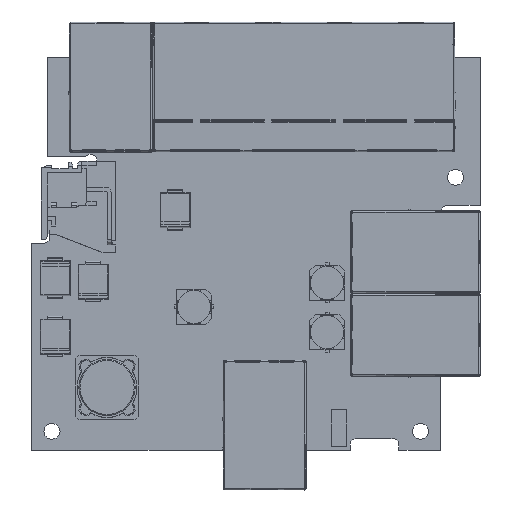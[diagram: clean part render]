
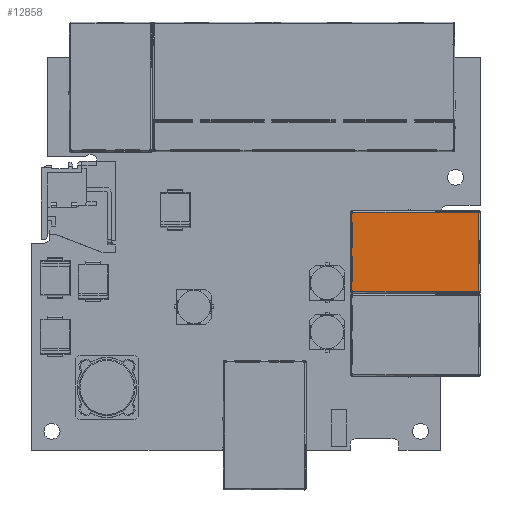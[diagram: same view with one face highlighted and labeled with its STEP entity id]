
A CAD part, top view. The second image highlights one B-rep face of the part: STEP entity #12858.
In plain terms, the highlighted planar face has unit normal (0, 0, 1) as drawn and (0, 0, -1) by its records, which use the part's own axes.
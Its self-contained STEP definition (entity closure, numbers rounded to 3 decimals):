
#12858=ADVANCED_FACE('NONE',(#31293),#31294,.T.);
#31293=FACE_OUTER_BOUND('',#55668,.T.);
#31294=PLANE('',#55669);
#55668=EDGE_LOOP('',(#98108,#98109,#98110,#98111,#98112,#98113,#98114,#98115,#98116,#98117,#98118,#98119,#98120,#98121,#98122,#98123,#98124,#98125,#98126,#98127));
#55669=AXIS2_PLACEMENT_3D('',#98128,#98129,#98130);
#98108=ORIENTED_EDGE('',*,*,#161931,.F.);
#98109=ORIENTED_EDGE('',*,*,#161903,.F.);
#98110=ORIENTED_EDGE('',*,*,#161962,.T.);
#98111=ORIENTED_EDGE('',*,*,#161945,.T.);
#98112=ORIENTED_EDGE('',*,*,#161622,.T.);
#98113=ORIENTED_EDGE('',*,*,#161963,.F.);
#98114=ORIENTED_EDGE('',*,*,#161846,.T.);
#98115=ORIENTED_EDGE('',*,*,#161939,.F.);
#98116=ORIENTED_EDGE('',*,*,#161964,.F.);
#98117=ORIENTED_EDGE('',*,*,#161935,.F.);
#98118=ORIENTED_EDGE('',*,*,#161928,.F.);
#98119=ORIENTED_EDGE('',*,*,#161965,.F.);
#98120=ORIENTED_EDGE('',*,*,#161906,.F.);
#98121=ORIENTED_EDGE('',*,*,#161966,.F.);
#98122=ORIENTED_EDGE('',*,*,#161913,.F.);
#98123=ORIENTED_EDGE('',*,*,#161967,.F.);
#98124=ORIENTED_EDGE('',*,*,#161921,.F.);
#98125=ORIENTED_EDGE('',*,*,#161968,.F.);
#98126=ORIENTED_EDGE('',*,*,#161918,.F.);
#98127=ORIENTED_EDGE('',*,*,#161969,.F.);
#98128=CARTESIAN_POINT('',(10.424,14.673,-6.854));
#98129=DIRECTION('',(0.,0.,-1.0));
#98130=DIRECTION('',(0.,1.0,0.));
#161622=EDGE_CURVE('NONE',#195517,#195515,#195518,.T.);
#161846=EDGE_CURVE('NONE',#195931,#195929,#195932,.T.);
#161903=EDGE_CURVE('NONE',#196016,#196018,#196019,.T.);
#161906=EDGE_CURVE('NONE',#196022,#196023,#196024,.T.);
#161913=EDGE_CURVE('NONE',#196034,#196036,#196037,.T.);
#161918=EDGE_CURVE('NONE',#196043,#196045,#196046,.T.);
#161921=EDGE_CURVE('NONE',#196049,#196050,#196051,.T.);
#161928=EDGE_CURVE('NONE',#196061,#196063,#196064,.T.);
#161931=EDGE_CURVE('NONE',#196018,#196067,#196068,.T.);
#161935=EDGE_CURVE('NONE',#196063,#196073,#196074,.T.);
#161939=EDGE_CURVE('NONE',#196079,#195929,#196080,.T.);
#161945=EDGE_CURVE('NONE',#196087,#195517,#196088,.T.);
#161962=EDGE_CURVE('NONE',#196016,#196087,#196110,.T.);
#161963=EDGE_CURVE('NONE',#195931,#195515,#196111,.T.);
#161964=EDGE_CURVE('NONE',#196073,#196079,#196112,.T.);
#161965=EDGE_CURVE('NONE',#196023,#196061,#196113,.T.);
#161966=EDGE_CURVE('NONE',#196036,#196022,#196114,.T.);
#161967=EDGE_CURVE('NONE',#196050,#196034,#196115,.T.);
#161968=EDGE_CURVE('NONE',#196045,#196049,#196116,.T.);
#161969=EDGE_CURVE('NONE',#196067,#196043,#196117,.T.);
#195515=VERTEX_POINT('NONE',#245445);
#195517=VERTEX_POINT('NONE',#245454);
#195518=LINE('',#245455,#245456);
#195929=VERTEX_POINT('NONE',#245996);
#195931=VERTEX_POINT('NONE',#245998);
#195932=LINE('',#245999,#246000);
#196016=VERTEX_POINT('NONE',#246125);
#196018=VERTEX_POINT('NONE',#246128);
#196019=LINE('',#246129,#246130);
#196022=VERTEX_POINT('NONE',#246134);
#196023=VERTEX_POINT('NONE',#246135);
#196024=CIRCLE('',#246136,0.25);
#196034=VERTEX_POINT('NONE',#246148);
#196036=VERTEX_POINT('NONE',#246151);
#196037=CIRCLE('',#246152,0.25);
#196043=VERTEX_POINT('NONE',#246159);
#196045=VERTEX_POINT('NONE',#246162);
#196046=CIRCLE('',#246163,0.25);
#196049=VERTEX_POINT('NONE',#246167);
#196050=VERTEX_POINT('NONE',#246168);
#196051=CIRCLE('',#246169,0.25);
#196061=VERTEX_POINT('NONE',#246181);
#196063=VERTEX_POINT('NONE',#246184);
#196064=CIRCLE('',#246185,0.25);
#196067=VERTEX_POINT('NONE',#246189);
#196068=CIRCLE('',#246190,0.25);
#196073=VERTEX_POINT('NONE',#246196);
#196074=LINE('',#246197,#246198);
#196079=VERTEX_POINT('NONE',#246205);
#196080=LINE('',#246206,#246207);
#196087=VERTEX_POINT('NONE',#246218);
#196088=LINE('',#246219,#246220);
#196110=LINE('',#246254,#246255);
#196111=LINE('',#246256,#246257);
#196112=LINE('',#246258,#246259);
#196113=LINE('',#246260,#246261);
#196114=LINE('',#246262,#246263);
#196115=LINE('',#246264,#246265);
#196116=LINE('',#246266,#246267);
#196117=LINE('',#246268,#246269);
#245445=CARTESIAN_POINT('',(10.424,9.153,-6.854));
#245454=CARTESIAN_POINT('',(10.424,14.673,-6.854));
#245455=CARTESIAN_POINT('',(10.424,14.673,-6.854));
#245456=VECTOR('',#302076,1000.0);
#245996=CARTESIAN_POINT('',(10.424,-0.927,-6.854));
#245998=CARTESIAN_POINT('',(10.424,4.593,-6.854));
#245999=CARTESIAN_POINT('',(10.424,14.673,-6.854));
#246000=VECTOR('',#302431,1000.0);
#246125=CARTESIAN_POINT('',(-14.251,14.673,-6.854));
#246128=CARTESIAN_POINT('',(-14.251,14.473,-6.854));
#246129=CARTESIAN_POINT('',(-14.251,14.473,-6.854));
#246130=VECTOR('',#302481,1000.0);
#246134=CARTESIAN_POINT('',(-14.251,1.273,-6.854));
#246135=CARTESIAN_POINT('',(-14.376,1.057,-6.854));
#246136=AXIS2_PLACEMENT_3D('',#302483,#302484,#302485);
#246148=CARTESIAN_POINT('',(-14.376,6.089,-6.854));
#246151=CARTESIAN_POINT('',(-14.251,5.873,-6.854));
#246152=AXIS2_PLACEMENT_3D('',#302495,#302496,#302497);
#246159=CARTESIAN_POINT('',(-14.376,12.689,-6.854));
#246162=CARTESIAN_POINT('',(-14.251,12.473,-6.854));
#246163=AXIS2_PLACEMENT_3D('',#302503,#302504,#302505);
#246167=CARTESIAN_POINT('',(-14.251,7.873,-6.854));
#246168=CARTESIAN_POINT('',(-14.376,7.657,-6.854));
#246169=AXIS2_PLACEMENT_3D('',#302507,#302508,#302509);
#246181=CARTESIAN_POINT('',(-14.376,-0.511,-6.854));
#246184=CARTESIAN_POINT('',(-14.251,-0.727,-6.854));
#246185=AXIS2_PLACEMENT_3D('',#302519,#302520,#302521);
#246189=CARTESIAN_POINT('',(-14.376,14.257,-6.854));
#246190=AXIS2_PLACEMENT_3D('',#302523,#302524,#302525);
#246196=CARTESIAN_POINT('',(-14.251,-0.927,-6.854));
#246197=CARTESIAN_POINT('',(-14.251,-0.727,-6.854));
#246198=VECTOR('',#302530,1000.0);
#246205=CARTESIAN_POINT('',(1.974,-0.927,-6.854));
#246206=CARTESIAN_POINT('',(10.424,-0.927,-6.854));
#246207=VECTOR('',#302533,1000.0);
#246218=CARTESIAN_POINT('',(1.974,14.673,-6.854));
#246219=CARTESIAN_POINT('',(10.424,14.673,-6.854));
#246220=VECTOR('',#302538,1000.0);
#246254=CARTESIAN_POINT('',(10.424,14.673,-6.854));
#246255=VECTOR('',#302557,1000.0);
#246256=CARTESIAN_POINT('',(10.424,9.403,-6.854));
#246257=VECTOR('',#302558,1000.0);
#246258=CARTESIAN_POINT('',(10.424,-0.927,-6.854));
#246259=VECTOR('',#302559,1000.0);
#246260=CARTESIAN_POINT('',(-14.376,14.673,-6.854));
#246261=VECTOR('',#302560,1000.0);
#246262=CARTESIAN_POINT('',(-14.251,1.273,-6.854));
#246263=VECTOR('',#302561,1000.0);
#246264=CARTESIAN_POINT('',(-14.376,14.673,-6.854));
#246265=VECTOR('',#302562,1000.0);
#246266=CARTESIAN_POINT('',(-14.251,7.873,-6.854));
#246267=VECTOR('',#302563,1000.0);
#246268=CARTESIAN_POINT('',(-14.376,14.673,-6.854));
#246269=VECTOR('',#302564,1000.0);
#302076=DIRECTION('',(0.,-1.0,0.));
#302431=DIRECTION('',(0.,-1.0,0.));
#302481=DIRECTION('',(0.,-1.0,0.));
#302483=CARTESIAN_POINT('',(-14.501,1.273,-6.854));
#302484=DIRECTION('',(0.,0.,-1.0));
#302485=DIRECTION('',(-1.0,0.,0.));
#302495=CARTESIAN_POINT('',(-14.501,5.873,-6.854));
#302496=DIRECTION('',(0.,0.,-1.0));
#302497=DIRECTION('',(-1.0,0.,0.));
#302503=CARTESIAN_POINT('',(-14.501,12.473,-6.854));
#302504=DIRECTION('',(0.,0.,-1.0));
#302505=DIRECTION('',(-1.0,0.,0.));
#302507=CARTESIAN_POINT('',(-14.501,7.873,-6.854));
#302508=DIRECTION('',(0.,0.,-1.0));
#302509=DIRECTION('',(1.0,0.,0.));
#302519=CARTESIAN_POINT('',(-14.501,-0.727,-6.854));
#302520=DIRECTION('',(0.,0.,-1.0));
#302521=DIRECTION('',(1.0,0.,0.));
#302523=CARTESIAN_POINT('',(-14.501,14.473,-6.854));
#302524=DIRECTION('',(0.,0.,-1.0));
#302525=DIRECTION('',(-1.0,0.,0.));
#302530=DIRECTION('',(0.,-1.0,0.));
#302533=DIRECTION('',(1.0,0.,0.));
#302538=DIRECTION('',(1.0,0.,0.));
#302557=DIRECTION('',(1.0,0.,0.));
#302558=DIRECTION('',(0.,1.0,0.));
#302559=DIRECTION('',(1.0,0.,0.));
#302560=DIRECTION('',(0.,-1.0,0.));
#302561=DIRECTION('',(0.,-1.0,0.));
#302562=DIRECTION('',(0.,-1.0,0.));
#302563=DIRECTION('',(0.,-1.0,0.));
#302564=DIRECTION('',(0.,-1.0,0.));
